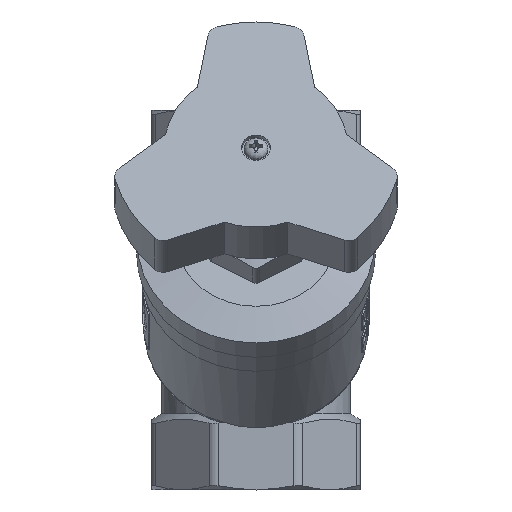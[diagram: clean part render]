
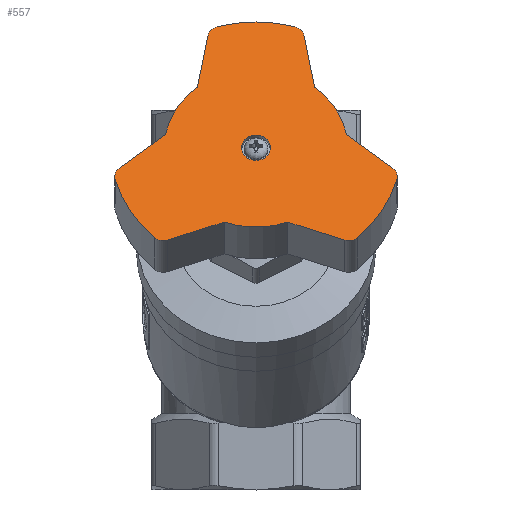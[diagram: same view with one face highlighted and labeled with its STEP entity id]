
A CAD part, top view. The second image highlights one B-rep face of the part: STEP entity #557.
In plain terms, the highlighted planar face has unit normal (0, 0.5, 0.866) as drawn and (0, 1, 0) by its records, which use the part's own axes.
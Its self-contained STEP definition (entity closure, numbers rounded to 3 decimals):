
#557=ADVANCED_FACE('',(#4427,#4429),#4431,.T.);
#4427=FACE_BOUND('',#4428,.T.);
#4428=EDGE_LOOP('',(#7290,#7291,#7292,#7293,#7294,#7295,#7296,#7297,#7298,#7299,
#7300,#7301,#7302,#7303,#7304,#7305,#7306,#7307));
#4429=FACE_BOUND('',#4430,.T.);
#4430=EDGE_LOOP('',(#7308));
#4431=PLANE('',#4432);
#4432=AXIS2_PLACEMENT_3D('',#4433,#4434,#4435);
#4433=CARTESIAN_POINT('',(0.,20.,0.));
#4434=DIRECTION('',(0.,1.,0.));
#4435=DIRECTION('',(-1.,0.,0.));
#7290=ORIENTED_EDGE('',*,*,#8535,.F.);
#7291=ORIENTED_EDGE('',*,*,#8536,.T.);
#7292=ORIENTED_EDGE('',*,*,#8537,.T.);
#7293=ORIENTED_EDGE('',*,*,#8538,.T.);
#7294=ORIENTED_EDGE('',*,*,#8539,.F.);
#7295=ORIENTED_EDGE('',*,*,#8540,.T.);
#7296=ORIENTED_EDGE('',*,*,#8541,.F.);
#7297=ORIENTED_EDGE('',*,*,#8542,.T.);
#7298=ORIENTED_EDGE('',*,*,#8543,.T.);
#7299=ORIENTED_EDGE('',*,*,#8544,.T.);
#7300=ORIENTED_EDGE('',*,*,#8545,.F.);
#7301=ORIENTED_EDGE('',*,*,#8546,.T.);
#7302=ORIENTED_EDGE('',*,*,#8547,.F.);
#7303=ORIENTED_EDGE('',*,*,#8548,.T.);
#7304=ORIENTED_EDGE('',*,*,#8549,.T.);
#7305=ORIENTED_EDGE('',*,*,#8550,.T.);
#7306=ORIENTED_EDGE('',*,*,#8551,.F.);
#7307=ORIENTED_EDGE('',*,*,#8552,.T.);
#7308=ORIENTED_EDGE('',*,*,#8533,.T.);
#8533=EDGE_CURVE('',#10340,#10340,#10341,.F.);
#8535=EDGE_CURVE('',#10344,#10345,#10346,.F.);
#8536=EDGE_CURVE('',#10344,#10347,#10348,.T.);
#8537=EDGE_CURVE('',#10347,#10349,#10350,.T.);
#8538=EDGE_CURVE('',#10349,#10351,#10352,.T.);
#8539=EDGE_CURVE('',#10353,#10351,#10354,.F.);
#8540=EDGE_CURVE('',#10353,#10355,#10356,.T.);
#8541=EDGE_CURVE('',#10357,#10355,#10358,.F.);
#8542=EDGE_CURVE('',#10357,#10359,#10360,.T.);
#8543=EDGE_CURVE('',#10359,#10361,#10362,.T.);
#8544=EDGE_CURVE('',#10361,#10363,#10364,.T.);
#8545=EDGE_CURVE('',#10365,#10363,#10366,.F.);
#8546=EDGE_CURVE('',#10365,#10367,#10368,.T.);
#8547=EDGE_CURVE('',#10369,#10367,#10370,.F.);
#8548=EDGE_CURVE('',#10369,#10371,#10372,.T.);
#8549=EDGE_CURVE('',#10371,#10373,#10374,.T.);
#8550=EDGE_CURVE('',#10373,#10375,#10376,.T.);
#8551=EDGE_CURVE('',#10377,#10375,#10378,.F.);
#8552=EDGE_CURVE('',#10377,#10345,#10379,.T.);
#10340=VERTEX_POINT('',#24979);
#10341=CIRCLE('',#24980,4.6);
#10344=VERTEX_POINT('',#24989);
#10345=VERTEX_POINT('',#24990);
#10346=CIRCLE('',#24991,4.);
#10347=VERTEX_POINT('',#24995);
#10348=LINE('',#24996,#24997);
#10349=VERTEX_POINT('',#24999);
#10350=CIRCLE('',#25000,29.);
#10351=VERTEX_POINT('',#25004);
#10352=LINE('',#25005,#25006);
#10353=VERTEX_POINT('',#25008);
#10354=CIRCLE('',#25009,4.);
#10355=VERTEX_POINT('',#25013);
#10356=CIRCLE('',#25014,46.);
#10357=VERTEX_POINT('',#25018);
#10358=CIRCLE('',#25019,4.);
#10359=VERTEX_POINT('',#25023);
#10360=LINE('',#25024,#25025);
#10361=VERTEX_POINT('',#25027);
#10362=CIRCLE('',#25028,29.);
#10363=VERTEX_POINT('',#25032);
#10364=LINE('',#25033,#25034);
#10365=VERTEX_POINT('',#25036);
#10366=CIRCLE('',#25037,4.);
#10367=VERTEX_POINT('',#25041);
#10368=CIRCLE('',#25042,46.);
#10369=VERTEX_POINT('',#25046);
#10370=CIRCLE('',#25047,4.);
#10371=VERTEX_POINT('',#25051);
#10372=LINE('',#25052,#25053);
#10373=VERTEX_POINT('',#25055);
#10374=CIRCLE('',#25056,29.);
#10375=VERTEX_POINT('',#25060);
#10376=LINE('',#25061,#25062);
#10377=VERTEX_POINT('',#25064);
#10378=CIRCLE('',#25065,4.);
#10379=CIRCLE('',#25069,46.);
#24979=CARTESIAN_POINT('',(-4.6,20.,0.));
#24980=AXIS2_PLACEMENT_3D('',#24981,#24982,#24983);
#24981=CARTESIAN_POINT('',(0.,20.,0.));
#24982=DIRECTION('',(0.,1.,0.));
#24983=DIRECTION('',(-1.,0.,0.));
#24989=CARTESIAN_POINT('',(28.058,20.,-33.727));
#24990=CARTESIAN_POINT('',(32.228,20.,-32.823));
#24991=AXIS2_PLACEMENT_3D('',#24992,#24993,#24994);
#24992=CARTESIAN_POINT('',(29.426,20.,-29.969));
#24993=DIRECTION('',(0.,1.,0.));
#24994=DIRECTION('',(0.701,0.,-0.714));
#24995=CARTESIAN_POINT('',(10.091,20.,-27.188));
#24996=CARTESIAN_POINT('',(28.058,20.,-33.727));
#24997=VECTOR('',#24998,1.);
#24998=DIRECTION('',(-0.94,0.,0.342));
#24999=CARTESIAN_POINT('',(-10.091,20.,-27.188));
#25000=AXIS2_PLACEMENT_3D('',#25001,#25002,#25003);
#25001=CARTESIAN_POINT('',(0.,20.,0.));
#25002=DIRECTION('',(0.,1.,0.));
#25003=DIRECTION('',(0.348,0.,-0.938));
#25004=CARTESIAN_POINT('',(-28.058,20.,-33.727));
#25005=CARTESIAN_POINT('',(-10.091,20.,-27.188));
#25006=VECTOR('',#25007,1.);
#25007=DIRECTION('',(-0.94,0.,-0.342));
#25008=CARTESIAN_POINT('',(-32.228,20.,-32.823));
#25009=AXIS2_PLACEMENT_3D('',#25010,#25011,#25012);
#25010=CARTESIAN_POINT('',(-29.426,20.,-29.969));
#25011=DIRECTION('',(0.,1.,0.));
#25012=DIRECTION('',(0.342,0.,-0.94));
#25013=CARTESIAN_POINT('',(-44.54,20.,-11.499));
#25014=AXIS2_PLACEMENT_3D('',#25015,#25016,#25017);
#25015=CARTESIAN_POINT('',(0.,20.,0.));
#25016=DIRECTION('',(0.,1.,0.));
#25017=DIRECTION('',(-0.701,0.,-0.714));
#25018=CARTESIAN_POINT('',(-43.238,20.,-7.435));
#25019=AXIS2_PLACEMENT_3D('',#25020,#25021,#25022);
#25020=CARTESIAN_POINT('',(-40.667,20.,-10.499));
#25021=DIRECTION('',(0.,1.,0.));
#25022=DIRECTION('',(-0.968,0.,-0.25));
#25023=CARTESIAN_POINT('',(-28.591,20.,4.855));
#25024=CARTESIAN_POINT('',(-43.238,20.,-7.435));
#25025=VECTOR('',#25026,1.);
#25026=DIRECTION('',(0.766,0.,0.643));
#25027=CARTESIAN_POINT('',(-18.5,20.,22.333));
#25028=AXIS2_PLACEMENT_3D('',#25029,#25030,#25031);
#25029=CARTESIAN_POINT('',(0.,20.,0.));
#25030=DIRECTION('',(0.,1.,0.));
#25031=DIRECTION('',(-0.986,0.,0.167));
#25032=CARTESIAN_POINT('',(-15.18,20.,41.162));
#25033=CARTESIAN_POINT('',(-18.5,20.,22.333));
#25034=VECTOR('',#25035,1.);
#25035=DIRECTION('',(0.174,0.,0.985));
#25036=CARTESIAN_POINT('',(-12.311,20.,44.322));
#25037=AXIS2_PLACEMENT_3D('',#25038,#25039,#25040);
#25038=CARTESIAN_POINT('',(-11.241,20.,40.468));
#25039=DIRECTION('',(0.,1.,0.));
#25040=DIRECTION('',(-0.985,0.,0.174));
#25041=CARTESIAN_POINT('',(12.311,20.,44.322));
#25042=AXIS2_PLACEMENT_3D('',#25043,#25044,#25045);
#25043=CARTESIAN_POINT('',(0.,20.,0.));
#25044=DIRECTION('',(0.,1.,0.));
#25045=DIRECTION('',(-0.268,0.,0.964));
#25046=CARTESIAN_POINT('',(15.18,20.,41.162));
#25047=AXIS2_PLACEMENT_3D('',#25048,#25049,#25050);
#25048=CARTESIAN_POINT('',(11.241,20.,40.468));
#25049=DIRECTION('',(0.,1.,0.));
#25050=DIRECTION('',(0.268,0.,0.964));
#25051=CARTESIAN_POINT('',(18.5,20.,22.333));
#25052=CARTESIAN_POINT('',(15.18,20.,41.162));
#25053=VECTOR('',#25054,1.);
#25054=DIRECTION('',(0.174,0.,-0.985));
#25055=CARTESIAN_POINT('',(28.591,20.,4.855));
#25056=AXIS2_PLACEMENT_3D('',#25057,#25058,#25059);
#25057=CARTESIAN_POINT('',(0.,20.,0.));
#25058=DIRECTION('',(0.,1.,0.));
#25059=DIRECTION('',(0.638,0.,0.77));
#25060=CARTESIAN_POINT('',(43.238,20.,-7.435));
#25061=CARTESIAN_POINT('',(28.591,20.,4.855));
#25062=VECTOR('',#25063,1.);
#25063=DIRECTION('',(0.766,0.,-0.643));
#25064=CARTESIAN_POINT('',(44.54,20.,-11.499));
#25065=AXIS2_PLACEMENT_3D('',#25066,#25067,#25068);
#25066=CARTESIAN_POINT('',(40.667,20.,-10.499));
#25067=DIRECTION('',(0.,1.,0.));
#25068=DIRECTION('',(0.643,0.,0.766));
#25069=AXIS2_PLACEMENT_3D('',#25070,#25071,#25072);
#25070=CARTESIAN_POINT('',(0.,20.,0.));
#25071=DIRECTION('',(0.,1.,0.));
#25072=DIRECTION('',(0.968,0.,-0.25));
